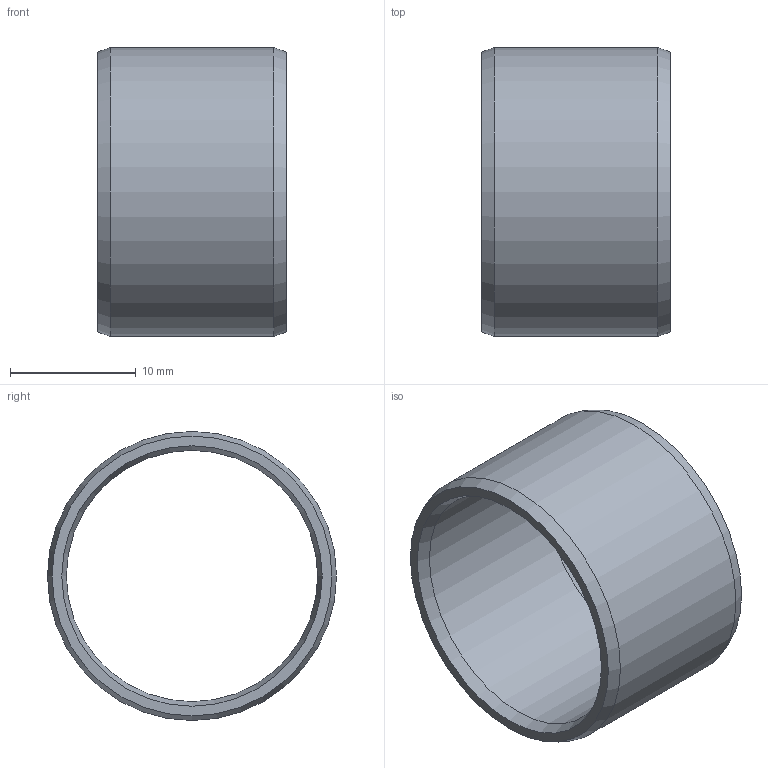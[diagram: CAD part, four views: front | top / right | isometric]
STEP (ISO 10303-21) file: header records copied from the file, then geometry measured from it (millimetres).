
FILE_DESCRIPTION(/* description */ (''),/* implementation_level */ '2;1');
FILE_NAME(/* name */ '',/* time_stamp */ '2025-10-31T16:05:46+09:00',/* author */ ('jhkim'),/* organization */ (''),/* preprocessor_version */ 'ST-DEVELOPER v20.1',/* originating_system */ 'Autodesk Inventor 2026',/* authorisation */ '');
FILE_SCHEMA (('AUTOMOTIVE_DESIGN { 1 0 10303 214 3 1 1 }'));
Length unit declared in the file: millimetre
Products named in the file (1): DU 부시
Bounding box: 15 x 23 x 23 mm (x, y, z)
Volume: 1470.6 mm3; surface area: 2148 mm2
Topology: 1 solids, 1 shells, 8 faces, 16 edges, 10 vertices
Faces by surface type: cone 4, plane 2, cylinder 2
Full cylindrical faces by diameter (mm): 20 x1, 23 x1
Entity records: 261 total; most frequent: DIRECTION 44, CARTESIAN_POINT 35, ORIENTED_EDGE 32, AXIS2_PLACEMENT_3D 19, EDGE_CURVE 16, EDGE_LOOP 10, CIRCLE 10, VERTEX_POINT 10
